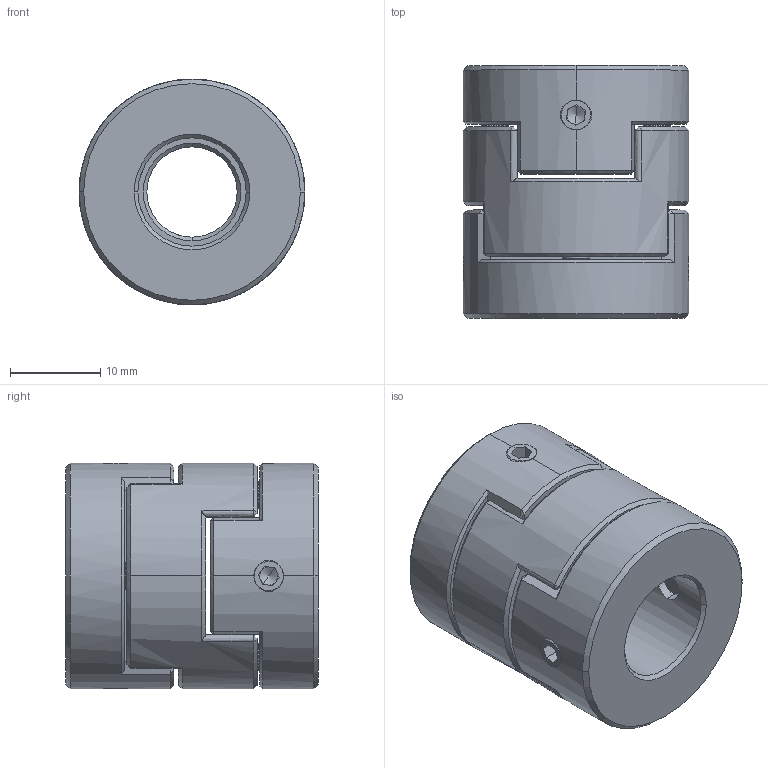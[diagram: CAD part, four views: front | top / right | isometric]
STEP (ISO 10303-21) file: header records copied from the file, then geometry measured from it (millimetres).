
FILE_DESCRIPTION (( 'STEP AP203' ), '1' );
FILE_NAME ('LZ-D-D25L28-10-12.STEP', '2021-10-30T02:22:03', ( '' ), ( '' ), 'SwSTEP 2.0', 'SolidWorks 2018', '' );
FILE_SCHEMA (( 'CONFIG_CONTROL_DESIGN' ));
Length unit declared in the file: millimetre
Products named in the file (1): LZ-D-D25L28-10-12
Bounding box: 25 x 28 x 25 mm (x, y, z)
Volume: 10491.6 mm3; surface area: 5525.4 mm2
Topology: 1 solids, 1 shells, 219 faces, 580 edges, 352 vertices
Faces by surface type: plane 89, cone 54, bspline 50, cylinder 26
Entity records: 9950 total; most frequent: CARTESIAN_POINT 4983, ORIENTED_EDGE 1144, DIRECTION 842, EDGE_CURVE 572, VERTEX_POINT 352, AXIS2_PLACEMENT_3D 306, EDGE_LOOP 234, LINE 230
